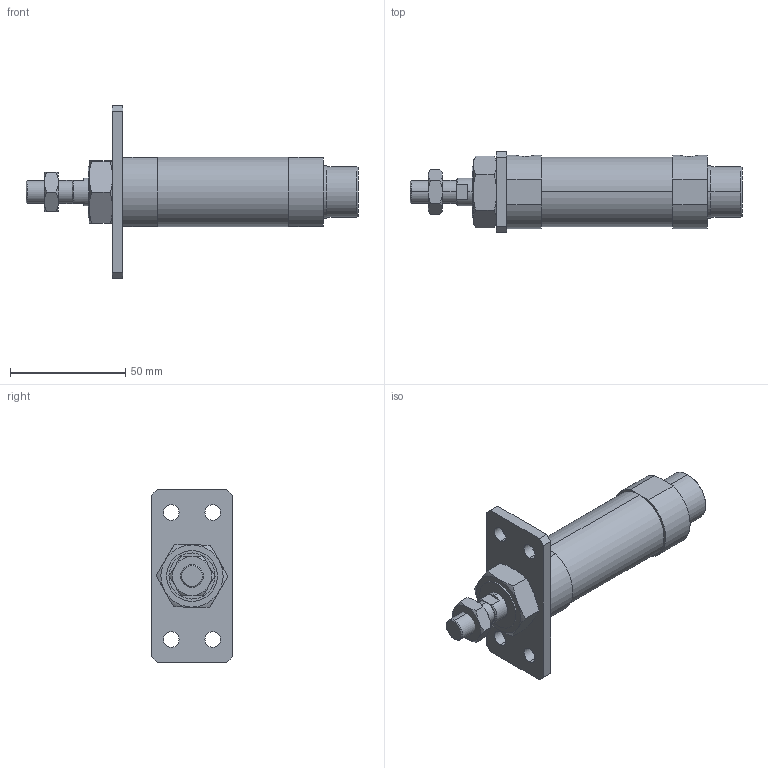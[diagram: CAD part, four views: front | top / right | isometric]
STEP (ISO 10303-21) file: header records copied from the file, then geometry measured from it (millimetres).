
FILE_DESCRIPTION (( 'STEP AP203' ), '1' );
FILE_NAME ('J#2-25-25-A.STEP', '2016-03-08T07:08:38', ( '' ), ( '' ), 'SwSTEP 2.0', 'SolidWorks 2014', '' );
FILE_SCHEMA (( 'CONFIG_CONTROL_DESIGN' ));
Length unit declared in the file: millimetre
Products named in the file (5): J#2-25-25; J#2-25-25-A; J#2-25-A
Assembly tree (4 placements, depth 2):
  J#2-25-25-A
    J#2-25-25
    (unnamed)
    (unnamed)
    J#2-25-A
Bounding box: 144 x 35 x 75 mm (x, y, z)
Volume: 88530.9 mm3; surface area: 23075.4 mm2
Topology: 4 solids, 4 shells, 117 faces, 268 edges, 162 vertices
Faces by surface type: plane 47, cylinder 36, torus 24, cone 10
Entity records: 4123 total; most frequent: CARTESIAN_POINT 990, DIRECTION 558, ORIENTED_EDGE 528, EDGE_CURVE 264, AXIS2_PLACEMENT_3D 226, VERTEX_POINT 162, EDGE_LOOP 138, FACE_OUTER_BOUND 117
